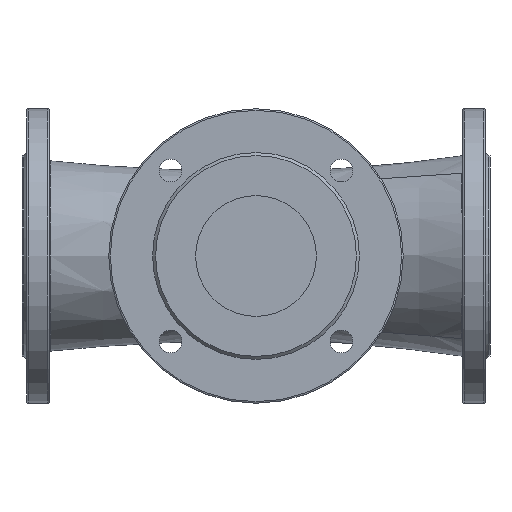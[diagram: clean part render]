
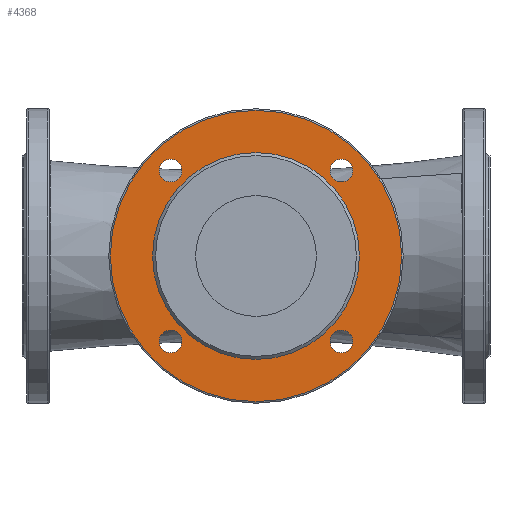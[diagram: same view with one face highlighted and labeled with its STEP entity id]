
A CAD part, front view. The second image highlights one B-rep face of the part: STEP entity #4368.
In plain terms, the highlighted planar face has unit normal (0, -1, 0).
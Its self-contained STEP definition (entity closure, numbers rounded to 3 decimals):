
#782=FACE_BOUND('',#1529,.T.);
#783=FACE_BOUND('',#1530,.T.);
#784=FACE_BOUND('',#1531,.T.);
#785=FACE_BOUND('',#1532,.T.);
#786=FACE_BOUND('',#1533,.T.);
#1117=FACE_OUTER_BOUND('',#1528,.T.);
#1528=EDGE_LOOP('',(#3624));
#1529=EDGE_LOOP('',(#3625));
#1530=EDGE_LOOP('',(#3626));
#1531=EDGE_LOOP('',(#3627));
#1532=EDGE_LOOP('',(#3628));
#1533=EDGE_LOOP('',(#3629));
#1821=CIRCLE('',#4792,7.5);
#1823=CIRCLE('',#4795,7.5);
#1825=CIRCLE('',#4798,7.5);
#1827=CIRCLE('',#4801,7.5);
#1857=CIRCLE('',#4853,68.5);
#1858=CIRCLE('',#4855,96.5);
#2155=VERTEX_POINT('',#7335);
#2157=VERTEX_POINT('',#7340);
#2159=VERTEX_POINT('',#7345);
#2161=VERTEX_POINT('',#7350);
#2206=VERTEX_POINT('',#8909);
#2207=VERTEX_POINT('',#8912);
#2657=EDGE_CURVE('',#2155,#2155,#1821,.T.);
#2659=EDGE_CURVE('',#2157,#2157,#1823,.T.);
#2661=EDGE_CURVE('',#2159,#2159,#1825,.T.);
#2663=EDGE_CURVE('',#2161,#2161,#1827,.T.);
#2713=EDGE_CURVE('',#2206,#2206,#1857,.T.);
#2714=EDGE_CURVE('',#2207,#2207,#1858,.T.);
#3624=ORIENTED_EDGE('',*,*,#2714,.F.);
#3625=ORIENTED_EDGE('',*,*,#2657,.T.);
#3626=ORIENTED_EDGE('',*,*,#2659,.T.);
#3627=ORIENTED_EDGE('',*,*,#2661,.T.);
#3628=ORIENTED_EDGE('',*,*,#2663,.T.);
#3629=ORIENTED_EDGE('',*,*,#2713,.F.);
#4113=PLANE('',#4854);
#4368=ADVANCED_FACE('',(#1117,#782,#783,#784,#785,#786),#4113,.T.);
#4792=AXIS2_PLACEMENT_3D('',#7336,#5803,#5804);
#4795=AXIS2_PLACEMENT_3D('',#7341,#5809,#5810);
#4798=AXIS2_PLACEMENT_3D('',#7346,#5815,#5816);
#4801=AXIS2_PLACEMENT_3D('',#7351,#5821,#5822);
#4853=AXIS2_PLACEMENT_3D('',#8910,#5926,#5927);
#4854=AXIS2_PLACEMENT_3D('',#8911,#5928,#5929);
#4855=AXIS2_PLACEMENT_3D('',#8913,#5930,#5931);
#5803=DIRECTION('center_axis',(0.,1.,0.));
#5804=DIRECTION('ref_axis',(-0.581,0.,0.814));
#5809=DIRECTION('center_axis',(0.,1.,0.));
#5810=DIRECTION('ref_axis',(-0.814,0.,-0.581));
#5815=DIRECTION('center_axis',(0.,1.,0.));
#5816=DIRECTION('ref_axis',(0.581,0.,-0.814));
#5821=DIRECTION('center_axis',(0.,1.,0.));
#5822=DIRECTION('ref_axis',(0.814,0.,0.581));
#5926=DIRECTION('center_axis',(0.,-1.,0.));
#5927=DIRECTION('ref_axis',(0.814,0.,-0.581));
#5928=DIRECTION('center_axis',(0.,-1.,0.));
#5929=DIRECTION('ref_axis',(0.,0.,-1.));
#5930=DIRECTION('center_axis',(0.,1.,0.));
#5931=DIRECTION('ref_axis',(0.,0.,-1.));
#7335=CARTESIAN_POINT('',(15182.52,13552.253,8075.009));
#7336=CARTESIAN_POINT('Origin',(15182.52,13552.253,8067.509));
#7340=CARTESIAN_POINT('',(15175.02,13552.253,7954.371));
#7341=CARTESIAN_POINT('Origin',(15182.52,13552.253,7954.371));
#7345=CARTESIAN_POINT('',(15295.657,13552.253,7946.871));
#7346=CARTESIAN_POINT('Origin',(15295.657,13552.253,7954.371));
#7350=CARTESIAN_POINT('',(15303.157,13552.253,8067.509));
#7351=CARTESIAN_POINT('Origin',(15295.657,13552.253,8067.509));
#8909=CARTESIAN_POINT('',(15307.588,13552.253,8010.94));
#8910=CARTESIAN_POINT('Origin',(15239.088,13552.253,8010.94));
#8911=CARTESIAN_POINT('Origin',(15142.588,13552.253,8010.94));
#8912=CARTESIAN_POINT('',(15335.588,13552.253,8010.94));
#8913=CARTESIAN_POINT('Origin',(15239.088,13552.253,8010.94));
